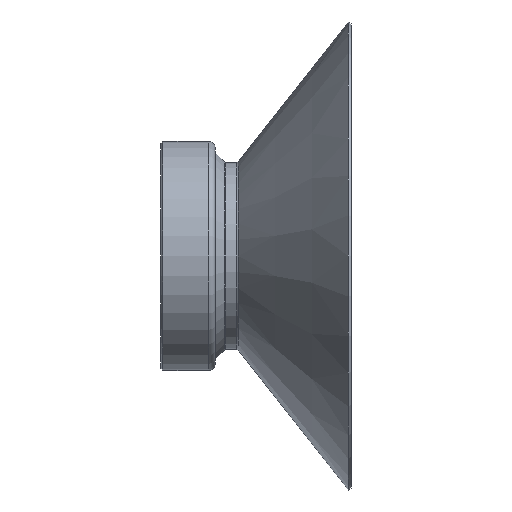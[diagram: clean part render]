
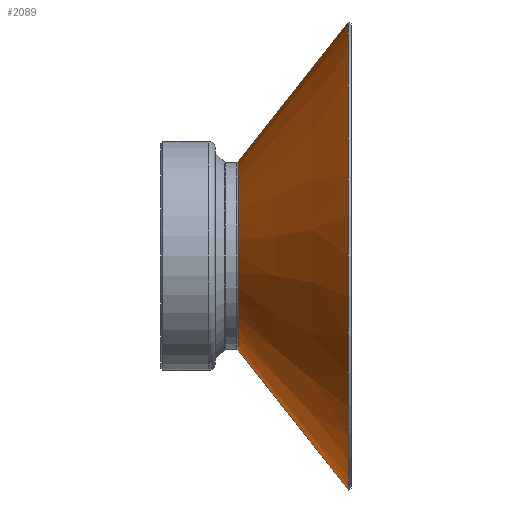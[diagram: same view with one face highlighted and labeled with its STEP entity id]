
A CAD part, left-side view. The second image highlights one B-rep face of the part: STEP entity #2089.
In plain terms, the highlighted conical face has half-angle 51.809 degrees and reference radius 10 mm.
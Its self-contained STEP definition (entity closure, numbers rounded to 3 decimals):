
#47 = ORIENTED_EDGE ( 'NONE', *, *, #1188, .F. ) ;
#95 = DIRECTION ( 'NONE',  ( 0., -1., 0. ) ) ;
#162 = AXIS2_PLACEMENT_3D ( 'NONE', #3370, #3019, #1392 ) ;
#402 = DIRECTION ( 'NONE',  ( 0., 0., 1. ) ) ;
#595 = CIRCLE ( 'NONE', #1377, 25. ) ;
#604 = CIRCLE ( 'NONE', #4009, 10.076 ) ;
#714 = LINE ( 'NONE', #2372, #2210 ) ;
#727 = DIRECTION ( 'NONE',  ( 0., -0.618, 0.786 ) ) ;
#903 = CARTESIAN_POINT ( 'NONE',  ( 0., -8.26, -10.076 ) ) ;
#946 = ORIENTED_EDGE ( 'NONE', *, *, #3851, .T. ) ;
#1132 = VERTEX_POINT ( 'NONE', #1352 ) ;
#1188 = EDGE_CURVE ( 'NONE', #4158, #1132, #714, .T. ) ;
#1229 = CARTESIAN_POINT ( 'NONE',  ( 0., -8.2, -10. ) ) ;
#1352 = CARTESIAN_POINT ( 'NONE',  ( 0., -20., 25. ) ) ;
#1373 = DIRECTION ( 'NONE',  ( 0., 1., 0. ) ) ;
#1377 = AXIS2_PLACEMENT_3D ( 'NONE', #2409, #1373, #402 ) ;
#1392 = DIRECTION ( 'NONE',  ( 0., 0., -1. ) ) ;
#1489 = EDGE_CURVE ( 'NONE', #4158, #4014, #604, .T. ) ;
#2033 = EDGE_LOOP ( 'NONE', ( #47, #3593, #2042, #946 ) ) ;
#2042 = ORIENTED_EDGE ( 'NONE', *, *, #2413, .T. ) ;
#2067 = CARTESIAN_POINT ( 'NONE',  ( 0., -8.26, 0. ) ) ;
#2089 = ADVANCED_FACE ( 'NONE', ( #4192 ), #2886, .T. ) ;
#2154 = VECTOR ( 'NONE', #3825, 1000. ) ;
#2210 = VECTOR ( 'NONE', #727, 1000. ) ;
#2316 = CARTESIAN_POINT ( 'NONE',  ( 0., -8.26, 10.076 ) ) ;
#2372 = CARTESIAN_POINT ( 'NONE',  ( 0., -8.2, 10. ) ) ;
#2409 = CARTESIAN_POINT ( 'NONE',  ( 0., -20., 0. ) ) ;
#2413 = EDGE_CURVE ( 'NONE', #4014, #2422, #3136, .T. ) ;
#2422 = VERTEX_POINT ( 'NONE', #4125 ) ;
#2886 = CONICAL_SURFACE ( 'NONE', #162, 10., 0.904 ) ;
#3019 = DIRECTION ( 'NONE',  ( 0., -1., 0. ) ) ;
#3058 = DIRECTION ( 'NONE',  ( 0., 0., -1. ) ) ;
#3136 = LINE ( 'NONE', #1229, #2154 ) ;
#3370 = CARTESIAN_POINT ( 'NONE',  ( 0., -8.2, 0. ) ) ;
#3593 = ORIENTED_EDGE ( 'NONE', *, *, #1489, .T. ) ;
#3825 = DIRECTION ( 'NONE',  ( 0., -0.618, -0.786 ) ) ;
#3851 = EDGE_CURVE ( 'NONE', #2422, #1132, #595, .T. ) ;
#4009 = AXIS2_PLACEMENT_3D ( 'NONE', #2067, #95, #3058 ) ;
#4014 = VERTEX_POINT ( 'NONE', #903 ) ;
#4125 = CARTESIAN_POINT ( 'NONE',  ( 0., -20., -25. ) ) ;
#4158 = VERTEX_POINT ( 'NONE', #2316 ) ;
#4192 = FACE_OUTER_BOUND ( 'NONE', #2033, .T. ) ;
